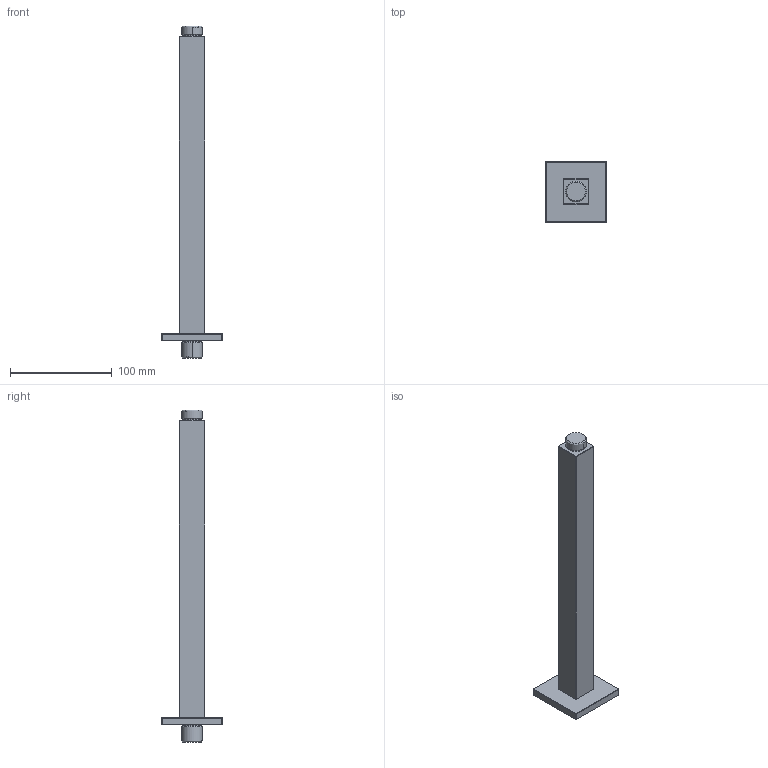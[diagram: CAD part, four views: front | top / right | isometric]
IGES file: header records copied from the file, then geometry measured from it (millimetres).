
Start section:  PTC IGES file: 90960.igs
Global section: file name: 90960.igs; native system: Creo Parametric by PTC Inc.; preprocessor: 2018100; author: carloff; organization: Unknown; date: 20210706.143343; units: millimetre
Bounding box: 60 x 60 x 327 mm (x, y, z)
Surface area: 39664.9 mm2 (no closed solid volume)
Topology: 0 solids, 0 shells, 53 faces, 216 edges, 216 vertices
Faces by surface type: revolution 40, bspline 13
